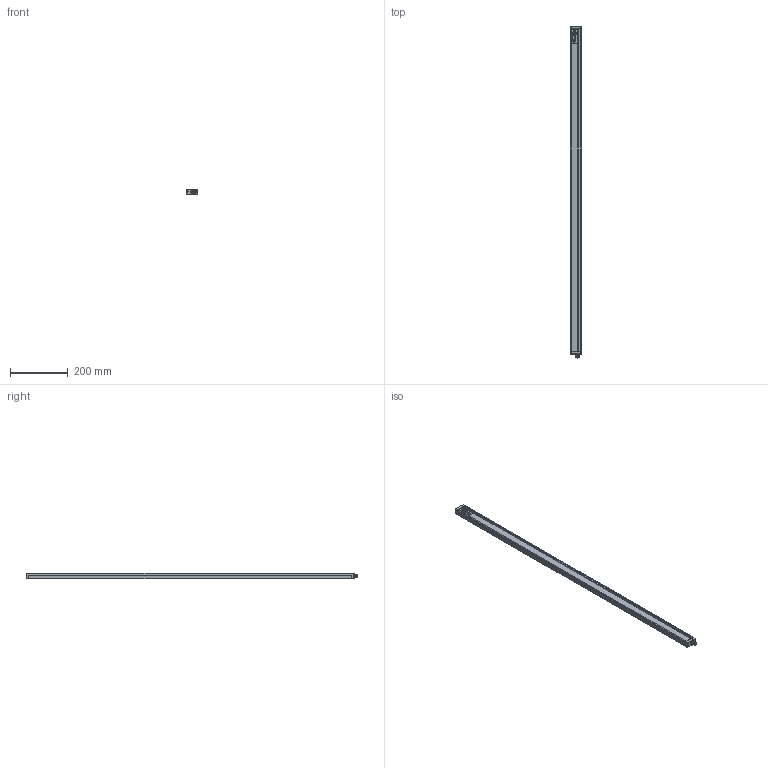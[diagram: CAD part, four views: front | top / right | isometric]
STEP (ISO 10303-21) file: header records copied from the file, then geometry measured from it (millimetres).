
FILE_DESCRIPTION(/* description */ (''),/* implementation_level */ '2;1');
FILE_NAME(/* name */ 'C:\Users\andre\SynologyDrive\Optoscan\Libreria Componenti\00 - Barriere\Barriera sorgente\Argo_1120_RX.stp',/* time_stamp */ '2021-04-22T11:59:42+02:00',/* author */ ('andre'),/* organization */ (''),/* preprocessor_version */ 'ST-DEVELOPER v18',/* originating_system */ 'Autodesk Inventor 2020',/* authorisation */ '');
FILE_SCHEMA (('AUTOMOTIVE_DESIGN { 1 0 10303 214 3 1 1 }'));
Length unit declared in the file: millimetre
Products named in the file (1): Argo_1120_RX
Bounding box: 40.5 x 1153.3 x 20.75 mm (x, y, z)
Volume: 229362.8 mm3; surface area: 301516 mm2
Topology: 1 solids, 1 shells, 692 faces, 1898 edges, 1217 vertices
Faces by surface type: plane 319, cylinder 195, bspline 94, torus 70, cone 8, sphere 6
Full cylindrical faces by diameter (mm): 1 x4, 2.459 x4, 2.5 x4, 3 x4, 3.5 x4, 5.5 x4, 8 x1, 10.5 x2, 11.75 x9, 15.7 x1, 17.5 x1
Entity records: 28165 total; most frequent: CARTESIAN_POINT 10195, ORIENTED_EDGE 3778, DIRECTION 3387, EDGE_CURVE 1889, VERTEX_POINT 1217, AXIS2_PLACEMENT_3D 1183, LINE 1021, VECTOR 1021
